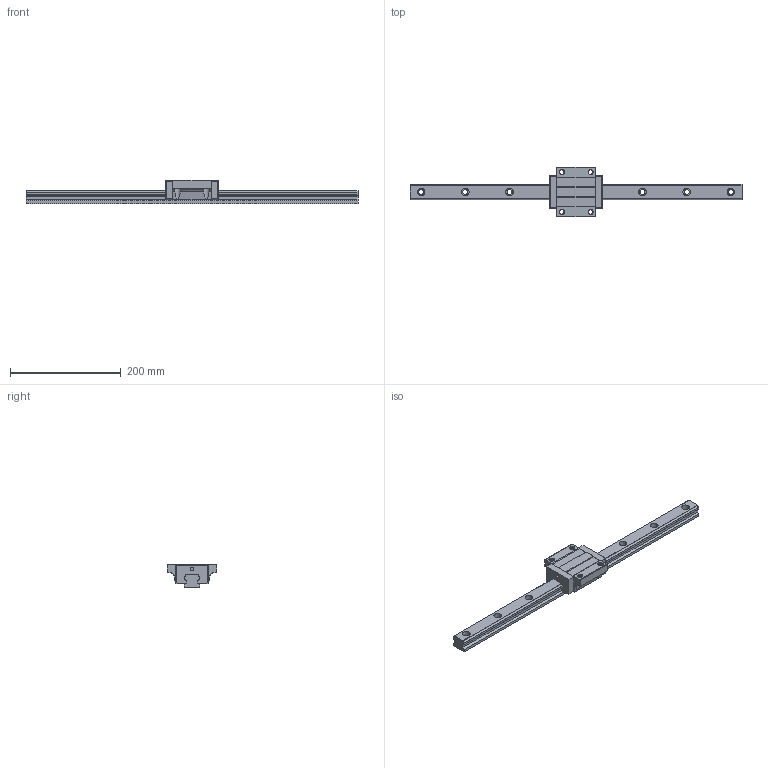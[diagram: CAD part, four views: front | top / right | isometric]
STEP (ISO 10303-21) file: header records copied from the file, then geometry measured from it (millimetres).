
FILE_DESCRIPTION (( 'STEP AP203' ), '1' );
FILE_NAME ('TRH30FN-XNC.STEP', '2024-08-16T05:51:44', ( '' ), ( '' ), 'SwSTEP 2.0', 'SolidWorks 2021', '' );
FILE_SCHEMA (( 'CONFIG_CONTROL_DESIGN' ));
Length unit declared in the file: millimetre
Products named in the file (1): TRH30FN-XNC
Bounding box: 600 x 90 x 42 mm (x, y, z)
Volume: 503666.4 mm3; surface area: 99955.9 mm2
Topology: 1 solids, 1 shells, 370 faces, 1074 edges, 708 vertices
Faces by surface type: cylinder 272, plane 86, bspline 8, sphere 4
Entity records: 18612 total; most frequent: CARTESIAN_POINT 9316, ORIENTED_EDGE 2140, DIRECTION 1630, EDGE_CURVE 1070, VERTEX_POINT 708, AXIS2_PLACEMENT_3D 571, LINE 488, VECTOR 488
